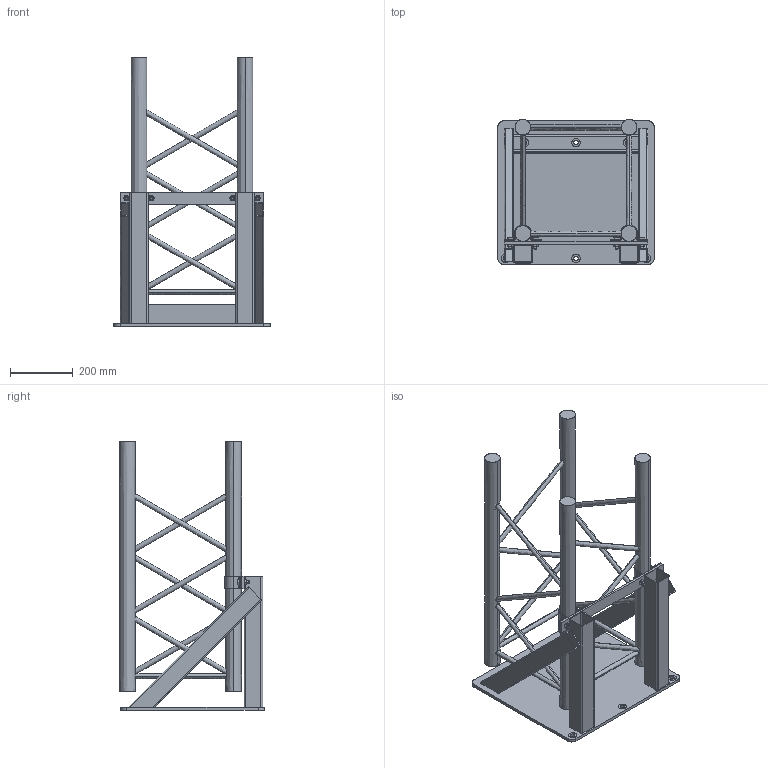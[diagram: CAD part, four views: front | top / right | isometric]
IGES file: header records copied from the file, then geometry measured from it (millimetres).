
Start section: SolidWorks IGES file using analytic representation for surfaces
Global section: file name: K:\BIBLIO\asd_biblio\Accessoires\FM40\FM40.IGS; native system: SolidWorks 2009; preprocessor: SolidWorks 2009; author: des3; date: 091023.164533; units: millimetre
Bounding box: 500 x 463 x 860 mm (x, y, z)
Surface area: 2146153.8 mm2 (no closed solid volume)
Topology: 0 solids, 0 shells, 441 faces, 9232 edges, 9232 vertices
Faces by surface type: revolution 249, bspline 192
